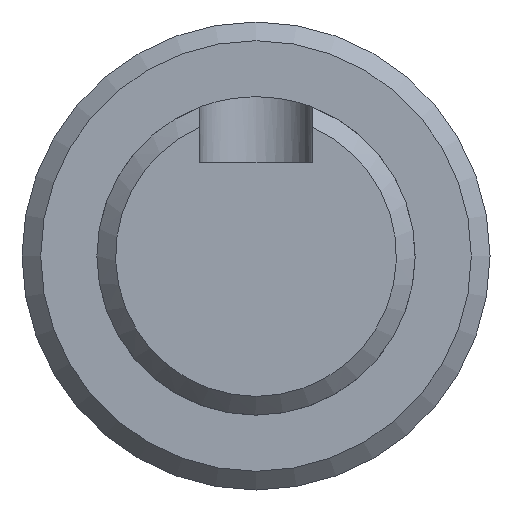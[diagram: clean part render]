
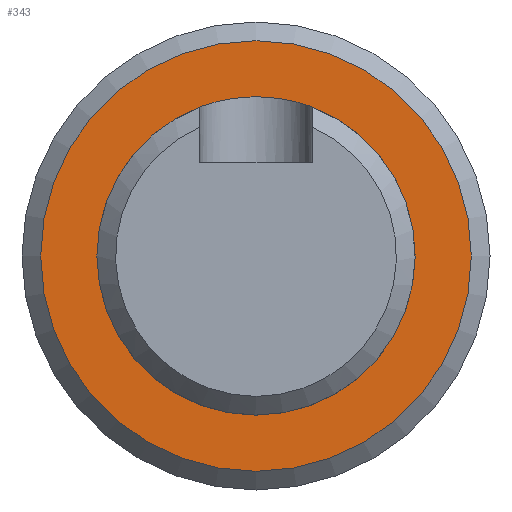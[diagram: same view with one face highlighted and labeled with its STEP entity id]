
A CAD part, left-side view. The second image highlights one B-rep face of the part: STEP entity #343.
In plain terms, the highlighted planar face has unit normal (-1, 0, 0).
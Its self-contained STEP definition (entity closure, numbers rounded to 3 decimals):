
#15=FACE_BOUND('',#86,.T.);
#24=CIRCLE('',#379,8.5);
#29=CIRCLE('',#392,11.5);
#65=FACE_OUTER_BOUND('',#85,.T.);
#85=EDGE_LOOP('',(#293));
#86=EDGE_LOOP('',(#294));
#154=VERTEX_POINT('',#563);
#165=VERTEX_POINT('',#636);
#191=EDGE_CURVE('',#154,#154,#24,.T.);
#208=EDGE_CURVE('',#165,#165,#29,.T.);
#293=ORIENTED_EDGE('',*,*,#208,.F.);
#294=ORIENTED_EDGE('',*,*,#191,.F.);
#326=PLANE('',#398);
#343=ADVANCED_FACE('',(#65,#15),#326,.T.);
#379=AXIS2_PLACEMENT_3D('',#565,#435,#436);
#392=AXIS2_PLACEMENT_3D('',#637,#469,#470);
#398=AXIS2_PLACEMENT_3D('',#649,#483,#484);
#435=DIRECTION('center_axis',(-1.,0.,0.));
#436=DIRECTION('ref_axis',(0.,-1.,0.));
#469=DIRECTION('center_axis',(1.,0.,0.));
#470=DIRECTION('ref_axis',(0.,1.,0.));
#483=DIRECTION('center_axis',(-1.,0.,0.));
#484=DIRECTION('ref_axis',(0.,0.,1.));
#563=CARTESIAN_POINT('',(-46.5,8.5,0.));
#565=CARTESIAN_POINT('Origin',(-46.5,0.,0.));
#636=CARTESIAN_POINT('',(-46.5,-11.5,0.));
#637=CARTESIAN_POINT('Origin',(-46.5,0.,0.));
#649=CARTESIAN_POINT('Origin',(-46.5,-10.5,0.));
